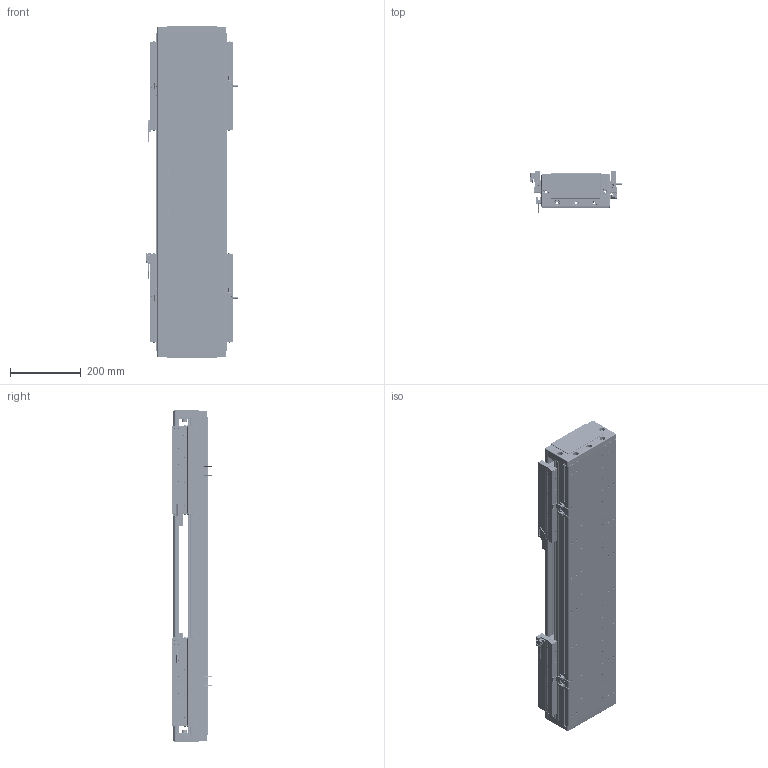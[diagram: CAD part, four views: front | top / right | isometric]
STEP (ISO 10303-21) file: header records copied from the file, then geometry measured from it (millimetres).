
FILE_DESCRIPTION (( 'STEP AP203' ), '1' );
FILE_NAME ('DA-C195-2-C3-T320-C010-0.2 眻盄萇儂.STEP', '2025-08-14T02:21:48', ( '' ), ( '' ), 'SwSTEP 2.0', 'SolidWorks 2019', '' );
FILE_SCHEMA (( 'CONFIG_CONTROL_DESIGN' ));
Length unit declared in the file: millimetre
Products named in the file (16): LMT黍杅芛; PM-T45ㄗ侂狟ㄘ; IU-CU195-L-00 菁釱(L900); DKW168-HXJ-ZJ-00 笢潔滅袉砎蝶; 葩璃 DA95-GT-T-00; 66156-0001-003-00 裔啣; DA-C195-2-C3-T320-C010-0.2 眻盄萇儂; CU195-C3賑輸-俋楷; DKW-KGZ-ZJ-00 中间光电开关支架; DKW-GYP-ZJ-00 笢潔嫖萇覜茼え; DA195-DG-H-00  端盖（压铸镂空版）; PM-Y65嫖萇羲壽郪璃; MS200 棠掑喜S315-T240; DA95-HXJ-00 遣喳砎蝶; IU-CU195-L 菁釱絳寢; DA165-GYP-00 光电感应片(默认)
Assembly tree (28 placements, depth 3):
  DA-C195-2-C3-T320-C010-0.2 眻盄萇儂
    IU-CU195-L 菁釱絳寢
      IU-CU195-L-00 菁釱(L900)
      葩璃 DA95-GT-T-00  x4
    LMT黍杅芛  x2
    MS200 棠掑喜S315-T240
    PM-T45ㄗ侂狟ㄘ  x4
    DA165-GYP-00 光电感应片(默认)  x2
    DA195-DG-H-00  端盖（压铸镂空版）  x2
    DA95-HXJ-00 遣喳砎蝶  x4
    PM-Y65嫖萇羲壽郪璃
    66156-0001-003-00 裔啣
    DKW168-HXJ-ZJ-00 笢潔滅袉砎蝶
    DKW-GYP-ZJ-00 笢潔嫖萇覜茼え
    DKW-KGZ-ZJ-00 中间光电开关支架
    CU195-C3賑輸-俋楷  x2
Bounding box: 258.2 x 115.6 x 940 mm (x, y, z)
Volume: 8876073.1 mm3; surface area: 2391811.3 mm2
Topology: 146 solids, 218 shells, 7662 faces, 19240 edges, 11687 vertices
Faces by surface type: cylinder 3096, plane 2782, cone 914, bspline 718, torus 80, sphere 72
Entity records: 149655 total; most frequent: CARTESIAN_POINT 45218, ORIENTED_EDGE 21666, DIRECTION 20816, EDGE_CURVE 10833, AXIS2_PLACEMENT_3D 7575, VERTEX_POINT 6840, LINE 5666, VECTOR 5666
